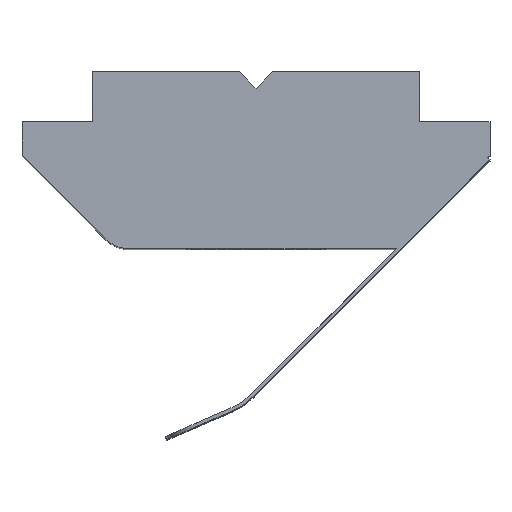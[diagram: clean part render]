
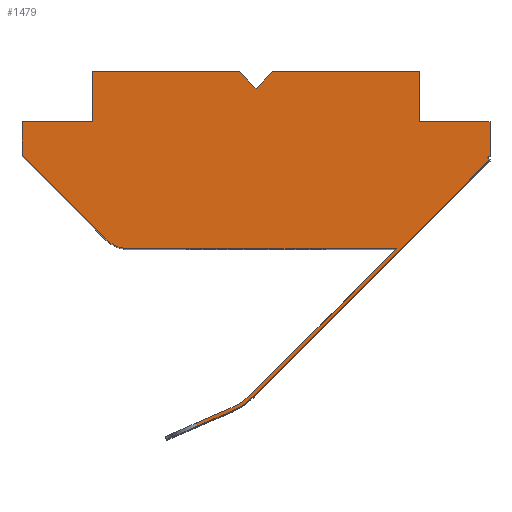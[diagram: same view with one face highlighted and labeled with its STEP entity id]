
A CAD part, top view. The second image highlights one B-rep face of the part: STEP entity #1479.
In plain terms, the highlighted planar face has unit normal (0, 0, 1).
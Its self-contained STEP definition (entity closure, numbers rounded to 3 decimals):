
#176=CARTESIAN_POINT('',(-0.5,5.3,19.0));
#177=VERTEX_POINT('',#176);
#184=CARTESIAN_POINT('',(0.0,4.8,19.0));
#185=VERTEX_POINT('',#184);
#186=CARTESIAN_POINT('',(0.0,4.8,19.0));
#187=DIRECTION('',(-0.707,0.707,0.0));
#188=VECTOR('',#187,0.707);
#189=LINE('',#186,#188);
#190=EDGE_CURVE('',#185,#177,#189,.T.);
#240=CARTESIAN_POINT('',(0.5,5.3,19.0));
#241=VERTEX_POINT('',#240);
#248=CARTESIAN_POINT('',(4.9,5.3,19.0));
#249=VERTEX_POINT('',#248);
#250=CARTESIAN_POINT('',(0.5,5.3,19.0));
#251=DIRECTION('',(1.0,0.0,0.0));
#252=VECTOR('',#251,4.4);
#253=LINE('',#250,#252);
#254=EDGE_CURVE('',#241,#249,#253,.T.);
#289=CARTESIAN_POINT('',(0.5,5.3,19.0));
#290=DIRECTION('',(-0.707,-0.707,0.0));
#291=VECTOR('',#290,0.707);
#292=LINE('',#289,#291);
#293=EDGE_CURVE('',#241,#185,#292,.T.);
#525=CARTESIAN_POINT('',(-0.708,-4.851,19.0));
#526=VERTEX_POINT('',#525);
#533=CARTESIAN_POINT('',(-1.749,-5.302,19.0));
#534=VERTEX_POINT('',#533);
#535=CARTESIAN_POINT('',(-0.708,-4.851,19.0));
#536=DIRECTION('',(-0.918,-0.398,0.0));
#537=VECTOR('',#536,1.134);
#538=LINE('',#535,#537);
#539=EDGE_CURVE('',#526,#534,#538,.T.);
#558=CARTESIAN_POINT('',(-1.789,-5.211,19.0));
#559=VERTEX_POINT('',#558);
#560=CARTESIAN_POINT('',(-1.749,-5.302,19.0));
#561=DIRECTION('',(-0.398,0.918,0.0));
#562=VECTOR('',#561,0.1);
#563=LINE('',#560,#562);
#564=EDGE_CURVE('',#534,#559,#563,.T.);
#977=CARTESIAN_POINT('',(-4.9,5.3,19.0));
#978=VERTEX_POINT('',#977);
#985=CARTESIAN_POINT('',(-4.9,5.3,19.0));
#986=DIRECTION('',(1.0,0.0,0.0));
#987=VECTOR('',#986,4.4);
#988=LINE('',#985,#987);
#989=EDGE_CURVE('',#978,#177,#988,.T.);
#1020=CARTESIAN_POINT('',(7.,2.659,19.0));
#1021=VERTEX_POINT('',#1020);
#1028=CARTESIAN_POINT('',(-0.089,-4.431,19.0));
#1029=VERTEX_POINT('',#1028);
#1030=CARTESIAN_POINT('',(7.,2.659,19.0));
#1031=DIRECTION('',(-0.707,-0.707,0.0));
#1032=VECTOR('',#1031,10.026);
#1033=LINE('',#1030,#1032);
#1034=EDGE_CURVE('',#1021,#1029,#1033,.T.);
#1051=CARTESIAN_POINT('',(-1.503,-3.016,19.0));
#1052=DIRECTION('',(0.0,0.0,-1.0));
#1053=DIRECTION('',(0.562,-0.827,0.0));
#1054=AXIS2_PLACEMENT_3D('',#1051,#1052,#1053);
#1055=CIRCLE('',#1054,2.0);
#1056=EDGE_CURVE('',#1029,#526,#1055,.T.);
#1070=CARTESIAN_POINT('',(-0.16,-4.36,19.0));
#1071=VERTEX_POINT('',#1070);
#1078=CARTESIAN_POINT('',(4.2,0.,19.0));
#1079=VERTEX_POINT('',#1078);
#1080=CARTESIAN_POINT('',(-0.16,-4.36,19.0));
#1081=DIRECTION('',(0.707,0.707,0.0));
#1082=VECTOR('',#1081,6.166);
#1083=LINE('',#1080,#1082);
#1084=EDGE_CURVE('',#1071,#1079,#1083,.T.);
#1102=CARTESIAN_POINT('',(-0.748,-4.76,19.0));
#1103=VERTEX_POINT('',#1102);
#1110=CARTESIAN_POINT('',(-1.503,-3.016,19.0));
#1111=DIRECTION('',(0.0,0.0,1.));
#1112=DIRECTION('',(0.562,-0.827,0.0));
#1113=AXIS2_PLACEMENT_3D('',#1110,#1111,#1112);
#1114=CIRCLE('',#1113,1.9);
#1115=EDGE_CURVE('',#1103,#1071,#1114,.T.);
#1129=CARTESIAN_POINT('',(-1.789,-5.211,19.0));
#1130=DIRECTION('',(0.918,0.398,0.0));
#1131=VECTOR('',#1130,1.134);
#1132=LINE('',#1129,#1131);
#1133=EDGE_CURVE('',#559,#1103,#1132,.T.);
#1145=CARTESIAN_POINT('',(-3.786,0.,19.0));
#1146=VERTEX_POINT('',#1145);
#1147=CARTESIAN_POINT('',(-4.493,0.293,19.0));
#1148=VERTEX_POINT('',#1147);
#1149=CARTESIAN_POINT('',(-3.786,1.,19.0));
#1150=DIRECTION('',(0.0,0.0,-1.));
#1151=DIRECTION('',(-0.383,-0.924,0.0));
#1152=AXIS2_PLACEMENT_3D('',#1149,#1150,#1151);
#1153=CIRCLE('',#1152,1.0);
#1154=EDGE_CURVE('',#1146,#1148,#1153,.T.);
#1178=CARTESIAN_POINT('',(-7.,2.8,19.0));
#1179=VERTEX_POINT('',#1178);
#1180=CARTESIAN_POINT('',(-4.493,0.293,19.0));
#1181=DIRECTION('',(-0.707,0.707,0.0));
#1182=VECTOR('',#1181,3.546);
#1183=LINE('',#1180,#1182);
#1184=EDGE_CURVE('',#1148,#1179,#1183,.T.);
#1242=CARTESIAN_POINT('',(6.929,2.729,19.0));
#1243=VERTEX_POINT('',#1242);
#1250=CARTESIAN_POINT('',(6.929,2.729,19.0));
#1251=DIRECTION('',(0.707,-0.707,0.0));
#1252=VECTOR('',#1251,0.1);
#1253=LINE('',#1250,#1252);
#1254=EDGE_CURVE('',#1243,#1021,#1253,.T.);
#1281=CARTESIAN_POINT('',(7.,2.8,19.0));
#1282=VERTEX_POINT('',#1281);
#1289=CARTESIAN_POINT('',(7.,2.8,19.0));
#1290=DIRECTION('',(-0.707,-0.707,0.0));
#1291=VECTOR('',#1290,0.1);
#1292=LINE('',#1289,#1291);
#1293=EDGE_CURVE('',#1282,#1243,#1292,.T.);
#1303=CARTESIAN_POINT('',(4.9,3.8,19.0));
#1304=VERTEX_POINT('',#1303);
#1305=CARTESIAN_POINT('',(4.9,5.3,19.0));
#1306=DIRECTION('',(0.0,-1.0,0.0));
#1307=VECTOR('',#1306,1.5);
#1308=LINE('',#1305,#1307);
#1309=EDGE_CURVE('',#249,#1304,#1308,.T.);
#1327=CARTESIAN_POINT('',(7.,3.8,19.0));
#1328=VERTEX_POINT('',#1327);
#1329=CARTESIAN_POINT('',(4.9,3.8,19.0));
#1330=DIRECTION('',(1.0,0.0,0.0));
#1331=VECTOR('',#1330,2.1);
#1332=LINE('',#1329,#1331);
#1333=EDGE_CURVE('',#1304,#1328,#1332,.T.);
#1351=CARTESIAN_POINT('',(7.,3.8,19.0));
#1352=DIRECTION('',(0.0,-1.0,0.0));
#1353=VECTOR('',#1352,1.);
#1354=LINE('',#1351,#1353);
#1355=EDGE_CURVE('',#1328,#1282,#1354,.T.);
#1373=CARTESIAN_POINT('',(4.2,0.,19.0));
#1374=DIRECTION('',(-1.0,0.0,0.0));
#1375=VECTOR('',#1374,7.986);
#1376=LINE('',#1373,#1375);
#1377=EDGE_CURVE('',#1079,#1146,#1376,.T.);
#1390=CARTESIAN_POINT('',(-7.,3.8,19.0));
#1391=VERTEX_POINT('',#1390);
#1392=CARTESIAN_POINT('',(-7.,2.8,19.0));
#1393=DIRECTION('',(0.0,1.0,0.0));
#1394=VECTOR('',#1393,1.);
#1395=LINE('',#1392,#1394);
#1396=EDGE_CURVE('',#1179,#1391,#1395,.T.);
#1414=CARTESIAN_POINT('',(-4.9,3.8,19.0));
#1415=VERTEX_POINT('',#1414);
#1416=CARTESIAN_POINT('',(-7.,3.8,19.0));
#1417=DIRECTION('',(1.0,0.0,0.0));
#1418=VECTOR('',#1417,2.1);
#1419=LINE('',#1416,#1418);
#1420=EDGE_CURVE('',#1391,#1415,#1419,.T.);
#1438=CARTESIAN_POINT('',(-4.9,3.8,19.0));
#1439=DIRECTION('',(0.0,1.0,0.0));
#1440=VECTOR('',#1439,1.5);
#1441=LINE('',#1438,#1440);
#1442=EDGE_CURVE('',#1415,#978,#1441,.T.);
#1450=CARTESIAN_POINT('',(0.,2.81,19.0));
#1451=DIRECTION('',(0.0,0.0,1.0));
#1452=DIRECTION('',(1.0,0.0,0.0));
#1453=AXIS2_PLACEMENT_3D('',#1450,#1451,#1452);
#1454=PLANE('',#1453);
#1455=ORIENTED_EDGE('',*,*,#564,.F.);
#1456=ORIENTED_EDGE('',*,*,#539,.F.);
#1457=ORIENTED_EDGE('',*,*,#1056,.F.);
#1458=ORIENTED_EDGE('',*,*,#1034,.F.);
#1459=ORIENTED_EDGE('',*,*,#1254,.F.);
#1460=ORIENTED_EDGE('',*,*,#1293,.F.);
#1461=ORIENTED_EDGE('',*,*,#1355,.F.);
#1462=ORIENTED_EDGE('',*,*,#1333,.F.);
#1463=ORIENTED_EDGE('',*,*,#1309,.F.);
#1464=ORIENTED_EDGE('',*,*,#254,.F.);
#1465=ORIENTED_EDGE('',*,*,#293,.T.);
#1466=ORIENTED_EDGE('',*,*,#190,.T.);
#1467=ORIENTED_EDGE('',*,*,#989,.F.);
#1468=ORIENTED_EDGE('',*,*,#1442,.F.);
#1469=ORIENTED_EDGE('',*,*,#1420,.F.);
#1470=ORIENTED_EDGE('',*,*,#1396,.F.);
#1471=ORIENTED_EDGE('',*,*,#1184,.F.);
#1472=ORIENTED_EDGE('',*,*,#1154,.F.);
#1473=ORIENTED_EDGE('',*,*,#1377,.F.);
#1474=ORIENTED_EDGE('',*,*,#1084,.F.);
#1475=ORIENTED_EDGE('',*,*,#1115,.F.);
#1476=ORIENTED_EDGE('',*,*,#1133,.F.);
#1477=EDGE_LOOP('',(#1455,#1456,#1457,#1458,#1459,#1460,#1461,#1462,#1463,#1464,#1465,#1466,#1467,#1468,#1469,#1470,#1471,#1472,#1473,#1474,#1475,#1476));
#1478=FACE_OUTER_BOUND('',#1477,.T.);
#1479=ADVANCED_FACE('',(#1478),#1454,.T.);
